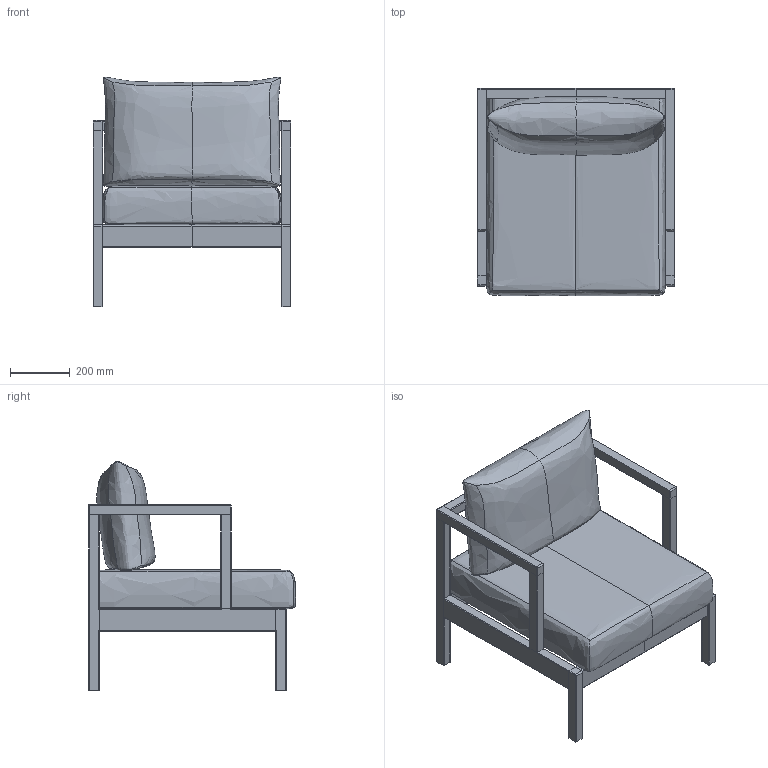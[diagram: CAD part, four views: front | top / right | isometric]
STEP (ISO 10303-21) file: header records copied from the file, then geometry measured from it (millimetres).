
FILE_DESCRIPTION(/* description */ (''),/* implementation_level */ '2;1');
FILE_NAME(/* name */ 'kinoshita_abord_w015',/* time_stamp */ '2024-10-01T14:13:35+09:00',/* author */ (''),/* organization */ (''),/* preprocessor_version */ 'ST-DEVELOPER v16.5',/* originating_system */ '',/* authorisation */ '');
FILE_SCHEMA (('AUTOMOTIVE_DESIGN'));
Length unit declared in the file: millimetre
Products named in the file (1): Document
Bounding box: 664 x 694.9 x 769.51 mm (x, y, z)
Volume: 90882674.4 mm3; surface area: 2699784.7 mm2
Topology: 2 solids, 2 shells, 202 faces, 489 edges, 275 vertices
Faces by surface type: bspline 118, plane 84
Entity records: 90485 total; most frequent: CARTESIAN_POINT 87493, ORIENTED_EDGE 962, EDGE_CURVE 481, B_SPLINE_CURVE_WITH_KNOTS 355, VERTEX_POINT 275, EDGE_LOOP 208, ADVANCED_FACE 202, FACE_OUTER_BOUND 202
